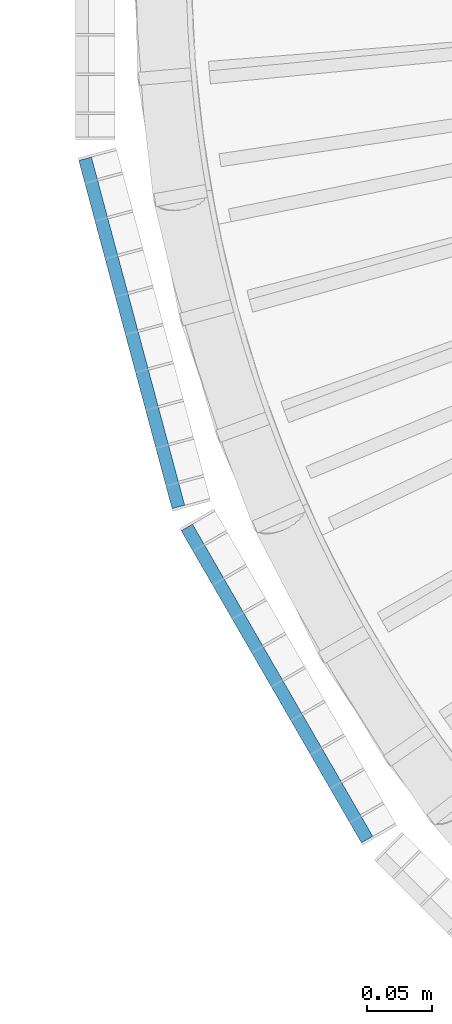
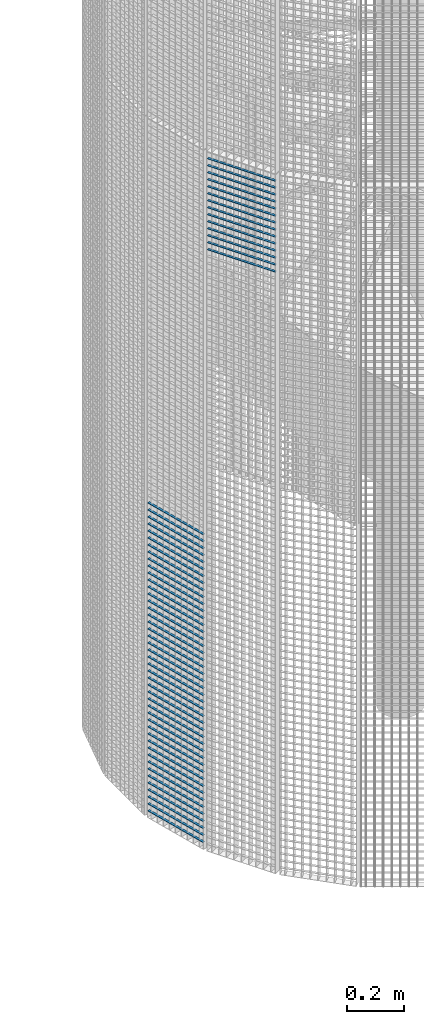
# One storey, part 366 of 1148: 59 beams, 2 elements without a shape of their own.
"""IFC2X3 building model written with IfcOpenShell, lengths in millimetres."""

import ifcopenshell
import ifcopenshell.guid

model = None  # the IFC model being written
_history = None  # IfcOwnerHistory: only IFC2X3 demands one
_inside = {}  # id of a spatial element -> (the spatial element, [elements in it])
_under = {}  # id of a project, library or spatial element -> (it, [spatial elements below it])
_declared = {}  # id of a project -> (the project, [libraries it declares])
_typed = {}  # id of a type object -> (the type object, [elements of that type])
_made_of = {}  # id of a material, layer set ... -> (it, [elements and type objects made of it])


def new_model(schema):
    """Start an empty IFC model of exactly this schema.

    Asked for "IFC4X3", IfcOpenShell would pick the latest addendum, in which some entities
    have other attributes; the version numbers below select the first issue.
    IFC2X3 requires an IfcOwnerHistory on every rooted entity: one is made here for all.
    """
    global model, _history
    if schema == "IFC4X3":
        model = ifcopenshell.file(schema_version=(4, 3, 0, 0))
    else:
        model = ifcopenshell.file(schema=schema)
    _inside.clear()
    _under.clear()
    _declared.clear()
    _typed.clear()
    _made_of.clear()
    _history = None
    if model.schema == "IFC2X3":
        org = make("IfcOrganization", Name="unknown")
        user = make(
            "IfcPersonAndOrganization",
            ThePerson=make("IfcPerson", FamilyName="unknown"),
            TheOrganization=org,
        )
        app = make(
            "IfcApplication",
            ApplicationDeveloper=org,
            Version="unknown",
            ApplicationFullName="unknown",
            ApplicationIdentifier="unknown",
        )
        _history = make(
            "IfcOwnerHistory",
            OwningUser=user,
            OwningApplication=app,
            ChangeAction="ADDED",
            CreationDate=0,
        )
    return model


def make(cls, **values):
    """One entity of the class cls with the attributes given. An attribute that is None is left unset."""
    return model.create_entity(
        cls, **{name: value for name, value in values.items() if value is not None}
    )


def rooted(cls, **values):
    """An entity with a GlobalId (a new one), such as an element, a storey or a relation."""
    return make(cls, GlobalId=ifcopenshell.guid.new(), OwnerHistory=_history, **values)


def si_unit(unit_type, name, prefix=None):
    """IfcSIUnit, for example si_unit("LENGTHUNIT", "METRE", prefix="MILLI")."""
    return make("IfcSIUnit", UnitType=unit_type, Prefix=prefix, Name=name)


def assignment(units):
    """IfcUnitAssignment: the units of a project."""
    return None if units is None else make("IfcUnitAssignment", Units=units)


def point(xyz):
    """IfcCartesianPoint."""
    return None if xyz is None else make("IfcCartesianPoint", Coordinates=xyz)


def direction(xyz):
    """IfcDirection."""
    return None if xyz is None else make("IfcDirection", DirectionRatios=xyz)


def frame(location, z_axis=None, x_axis=None):
    """IfcAxis2Placement3D, a coordinate frame: its origin and axes. An axis left out is left unset."""
    return make(
        "IfcAxis2Placement3D",
        Location=point(location),
        Axis=direction(z_axis),
        RefDirection=direction(x_axis),
    )


def frame_2d(location, x_axis=None):
    """IfcAxis2Placement2D, a coordinate frame in the plane: its origin and x axis."""
    return make(
        "IfcAxis2Placement2D", Location=point(location), RefDirection=direction(x_axis)
    )


def origin_with_axes():
    """The frame at (0, 0, 0) with the z axis (0, 0, 1) and the x axis (1, 0, 0) written out."""
    return frame((0.0, 0.0, 0.0), z_axis=(0.0, 0.0, 1.0), x_axis=(1.0, 0.0, 0.0))


def origin_2d_with_axis():
    """The frame at (0, 0) in the plane with the x axis (1, 0) written out."""
    return frame_2d((0.0, 0.0), x_axis=(1.0, 0.0))


def place(relative_to, where):
    """IfcLocalPlacement: puts the frame where relative to a parent placement (None: the world)."""
    return make(
        "IfcLocalPlacement", PlacementRelTo=relative_to, RelativePlacement=where
    )


def context(
    kind, dimensions, precision=None, world=None, true_north=None, identifier=None
):
    """IfcGeometricRepresentationContext, for example the 3D "Model" context."""
    return make(
        "IfcGeometricRepresentationContext",
        ContextIdentifier=identifier,
        ContextType=kind,
        CoordinateSpaceDimension=dimensions,
        Precision=precision,
        WorldCoordinateSystem=world,
        TrueNorth=true_north,
    )


def subcontext(parent, identifier, kind, view, scale=None):
    """IfcGeometricRepresentationSubContext, for example "Body" below "Model"."""
    return make(
        "IfcGeometricRepresentationSubContext",
        ContextIdentifier=identifier,
        ContextType=kind,
        ParentContext=parent,
        TargetScale=scale,
        TargetView=view,
    )


def project(units=None, contexts=None):
    """IfcProject with its units and contexts."""
    return rooted(
        "IfcProject",
        Name="project",
        RepresentationContexts=contexts,
        UnitsInContext=assignment(units),
    )


def spatial(cls, under=None, at=None, **own):
    """A site, building, storey or space (cls), placed at a placement, below another one or the project."""
    s = rooted(cls, ObjectPlacement=at, **own)
    if under is not None:
        _under.setdefault(under.id(), (under, []))[1].append(s)
    return s


def profile(cls, at=None, kind="AREA", **sizes):
    """A parametric profile (cls). Its sizes go by their IFC names, for example OverallWidth=200.0."""
    return make(cls, ProfileType=kind, Position=at, **sizes)


def rectangle(**sizes):
    """IfcRectangleProfileDef."""
    return profile("IfcRectangleProfileDef", **sizes)


def extrude(swept, where, along, depth):
    """IfcExtrudedAreaSolid: the profile swept, set in the frame where, extruded along a direction by depth."""
    return make(
        "IfcExtrudedAreaSolid",
        SweptArea=swept,
        Position=where,
        ExtrudedDirection=direction(along),
        Depth=depth,
    )


def shape(context_of_items, identifier, shape_type, items):
    """IfcShapeRepresentation: the items that make up one representation, for example the "Body"."""
    return make(
        "IfcShapeRepresentation",
        ContextOfItems=context_of_items,
        RepresentationIdentifier=identifier,
        RepresentationType=shape_type,
        Items=items,
    )


def material(Name=None, Category=None):
    """IfcMaterial."""
    return make("IfcMaterial", Name=Name, Category=Category)


def made_of(thing, what):
    """Note that an element or type object is made of a material, layer set ...; save() writes the relation."""
    if what is not None:
        _made_of.setdefault(what.id(), (what, []))[1].append(thing)
    return thing


def type_object(cls, material=None, **own):
    """A type object (cls), such as IfcWallType, which elements share."""
    return made_of(rooted(cls, **own), material)


def element(
    cls,
    number,
    at=None,
    inside=None,
    cuts=None,
    type_object=None,
    material=None,
    context=None,
    identifier="Body",
    shape_type=None,
    held_by="IfcProductDefinitionShape",
    body=None,
    shapes=None,
    **own,
):
    """One element of the class cls, such as IfcWall. Its Tag is "e" and its number.

    at: its placement. inside: the storey or other place that contains it. cuts: it is an
    opening in that element (IfcRelVoidsElement). A single representation is given by context,
    identifier, shape_type and body (its items); several are given by shapes. held_by: the class
    of the entity that holds the representations. save() writes the other relations.
    """
    e = rooted(cls, Tag="e%d" % number, ObjectPlacement=at, **own)
    if body is not None:
        shapes = [shape(context, identifier, shape_type, body)]
    if shapes is not None:
        e.Representation = make(held_by, Representations=shapes)
    if inside is not None:
        _inside.setdefault(inside.id(), (inside, []))[1].append(e)
    if cuts is not None:
        rooted(
            "IfcRelVoidsElement", RelatingBuildingElement=cuts, RelatedOpeningElement=e
        )
    if type_object is not None:
        _typed.setdefault(type_object.id(), (type_object, []))[1].append(e)
    return made_of(e, material)


def aggregate(whole, parts):
    """IfcRelAggregates: a whole, such as a stair, and the parts it consists of."""
    return rooted("IfcRelAggregates", RelatingObject=whole, RelatedObjects=parts)


def save(model, path):
    """Write the relations noted so far, then the file.

    IfcRelAggregates (storeys below a building ...), IfcRelContainedInSpatialStructure (elements
    in a storey), IfcRelDefinesByType, IfcRelAssociatesMaterial and IfcRelDeclares: one each for
    every whole, place, type object, material and project.
    """
    for whole, parts in _under.values():
        aggregate(whole, parts)
    for where, things in _inside.values():
        rooted(
            "IfcRelContainedInSpatialStructure",
            RelatedElements=things,
            RelatingStructure=where,
        )
    for kind, things in _typed.values():
        rooted("IfcRelDefinesByType", RelatedObjects=things, RelatingType=kind)
    for what, things in _made_of.values():
        rooted("IfcRelAssociatesMaterial", RelatedObjects=things, RelatingMaterial=what)
    for by, libraries in _declared.values():
        rooted("IfcRelDeclares", RelatingContext=by, RelatedDefinitions=libraries)
    model.write(path)


model = new_model("IFC2X3")

# Units and contexts
model_context = context("Model", 3, precision=1e-05, world=origin_with_axes())
body_context = subcontext(model_context, "Body", "Model", "MODEL_VIEW")
ifc_project = project(units=[si_unit("LENGTHUNIT", "METRE", prefix="MILLI"), si_unit("AREAUNIT", "SQUARE_METRE"), si_unit("VOLUMEUNIT", "CUBIC_METRE"), si_unit("MASSUNIT", "GRAM", prefix="KILO"), si_unit("TIMEUNIT", "SECOND"), si_unit("PLANEANGLEUNIT", "RADIAN"), si_unit("SOLIDANGLEUNIT", "STERADIAN"), si_unit("THERMODYNAMICTEMPERATUREUNIT", "DEGREE_CELSIUS"), si_unit("LUMINOUSINTENSITYUNIT", "LUMEN")], contexts=[model_context])

# Site, building, storey
site_placement = place(None, origin_with_axes())
site = spatial("IfcSite", under=ifc_project, at=site_placement, Name="Undefined", CompositionType="ELEMENT")
building_placement = place(site_placement, origin_with_axes())
building = spatial("IfcBuilding", under=site, at=building_placement, Name="Undefined", CompositionType="ELEMENT")
storey_placement = place(building_placement, origin_with_axes())
storey = spatial("IfcBuildingStorey", under=building, at=storey_placement, Name="Undefined", CompositionType="ELEMENT", Elevation=0.0)

# Assembly, beams
assembly_1_placement = place(storey_placement, origin_with_axes())
assembly_1 = element("IfcElementAssembly", 1, at=assembly_1_placement, inside=storey, Name="BORDURE", AssemblyPlace="NOTDEFINED", PredefinedType="NOTDEFINED")
ifc_material = material(Name="STEEL/S235JR")
beam_type = type_object("IfcBeamType", Name="PL2*10", PredefinedType="NOTDEFINED")
beam_1_placement = place(assembly_1_placement, frame((20560.1769047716, -421.483733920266, 1350.0), z_axis=(-0.965925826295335, -0.258819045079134, 0.0), x_axis=(-0.258819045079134, 0.965925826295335, 0.0)))
beam_1 = element("IfcBeam", 2, at=beam_1_placement, type_object=beam_type, material=ifc_material, Name="ENTRETOISE", context=body_context, shape_type="SweptSolid", body=[
    extrude(rectangle(XDim=2.0, YDim=10.0, at=origin_2d_with_axis()), frame((275.999999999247, 9.09494701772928e-13, 1.53210777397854e-14), z_axis=(-1.0, 0.0, 0.0), x_axis=(0.0, -1.0, 0.0)), (0.0, 0.0, 1.0), 276.0),
])
beam_2_placement = place(assembly_1_placement, frame((20560.1769047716, -421.483733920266, 1320.0), z_axis=(-0.965925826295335, -0.258819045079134, 0.0), x_axis=(-0.258819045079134, 0.965925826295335, 0.0)))
beam_2 = element("IfcBeam", 3, at=beam_2_placement, type_object=beam_type, material=ifc_material, Name="ENTRETOISE", context=body_context, shape_type="SweptSolid", body=[
    extrude(rectangle(XDim=2.0, YDim=10.0, at=origin_2d_with_axis()), frame((275.999999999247, 9.09494701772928e-13, 1.53210777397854e-14), z_axis=(-1.0, 0.0, 0.0), x_axis=(0.0, -1.0, 0.0)), (0.0, 0.0, 1.0), 276.0),
])
beam_3_placement = place(assembly_1_placement, frame((20560.1769047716, -421.483733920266, 1290.0), z_axis=(-0.965925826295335, -0.258819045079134, 0.0), x_axis=(-0.258819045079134, 0.965925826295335, 0.0)))
beam_3 = element("IfcBeam", 4, at=beam_3_placement, type_object=beam_type, material=ifc_material, Name="ENTRETOISE", context=body_context, shape_type="SweptSolid", body=[
    extrude(rectangle(XDim=2.0, YDim=10.0, at=origin_2d_with_axis()), frame((275.999999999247, 9.09494701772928e-13, 1.53210777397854e-14), z_axis=(-1.0, 0.0, 0.0), x_axis=(0.0, -1.0, 0.0)), (0.0, 0.0, 1.0), 276.0),
])
beam_4_placement = place(assembly_1_placement, frame((20560.1769047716, -421.483733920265, 1260.0), z_axis=(-0.965925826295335, -0.258819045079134, 0.0), x_axis=(-0.258819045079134, 0.965925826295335, 0.0)))
beam_4 = element("IfcBeam", 5, at=beam_4_placement, type_object=beam_type, material=ifc_material, Name="ENTRETOISE", context=body_context, shape_type="SweptSolid", body=[
    extrude(rectangle(XDim=2.0, YDim=10.0, at=origin_2d_with_axis()), frame((275.999999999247, 9.09494701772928e-13, 1.53210777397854e-14), z_axis=(-1.0, 0.0, 0.0), x_axis=(0.0, -1.0, 0.0)), (0.0, 0.0, 1.0), 276.0),
])
beam_5_placement = place(assembly_1_placement, frame((20560.1769047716, -421.483733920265, 1230.0), z_axis=(-0.965925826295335, -0.258819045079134, 0.0), x_axis=(-0.258819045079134, 0.965925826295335, 0.0)))
beam_5 = element("IfcBeam", 6, at=beam_5_placement, type_object=beam_type, material=ifc_material, Name="ENTRETOISE", context=body_context, shape_type="SweptSolid", body=[
    extrude(rectangle(XDim=2.0, YDim=10.0, at=origin_2d_with_axis()), frame((275.999999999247, 9.09494701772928e-13, 1.53210777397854e-14), z_axis=(-1.0, 0.0, 0.0), x_axis=(0.0, -1.0, 0.0)), (0.0, 0.0, 1.0), 276.0),
])
beam_6_placement = place(assembly_1_placement, frame((20560.1769047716, -421.483733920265, 1200.0), z_axis=(-0.965925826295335, -0.258819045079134, 0.0), x_axis=(-0.258819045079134, 0.965925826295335, 0.0)))
beam_6 = element("IfcBeam", 7, at=beam_6_placement, type_object=beam_type, material=ifc_material, Name="ENTRETOISE", context=body_context, shape_type="SweptSolid", body=[
    extrude(rectangle(XDim=2.0, YDim=10.0, at=origin_2d_with_axis()), frame((275.999999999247, 9.09494701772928e-13, 1.53210777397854e-14), z_axis=(-1.0, 0.0, 0.0), x_axis=(0.0, -1.0, 0.0)), (0.0, 0.0, 1.0), 276.0),
])
beam_7_placement = place(assembly_1_placement, frame((20560.1769047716, -421.483733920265, 1170.0), z_axis=(-0.965925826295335, -0.258819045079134, 0.0), x_axis=(-0.258819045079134, 0.965925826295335, 0.0)))
beam_7 = element("IfcBeam", 8, at=beam_7_placement, type_object=beam_type, material=ifc_material, Name="ENTRETOISE", context=body_context, shape_type="SweptSolid", body=[
    extrude(rectangle(XDim=2.0, YDim=10.0, at=origin_2d_with_axis()), frame((275.999999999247, 9.09494701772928e-13, 1.53210777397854e-14), z_axis=(-1.0, 0.0, 0.0), x_axis=(0.0, -1.0, 0.0)), (0.0, 0.0, 1.0), 276.0),
])
beam_8_placement = place(assembly_1_placement, frame((20560.1769047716, -421.483733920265, 1140.0), z_axis=(-0.965925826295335, -0.258819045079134, 0.0), x_axis=(-0.258819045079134, 0.965925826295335, 0.0)))
beam_8 = element("IfcBeam", 9, at=beam_8_placement, type_object=beam_type, material=ifc_material, Name="ENTRETOISE", context=body_context, shape_type="SweptSolid", body=[
    extrude(rectangle(XDim=2.0, YDim=10.0, at=origin_2d_with_axis()), frame((275.999999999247, 9.09494701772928e-13, 1.53210777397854e-14), z_axis=(-1.0, 0.0, 0.0), x_axis=(0.0, -1.0, 0.0)), (0.0, 0.0, 1.0), 276.0),
])
beam_9_placement = place(assembly_1_placement, frame((20560.1769047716, -421.483733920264, 719.999999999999), z_axis=(-0.965925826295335, -0.258819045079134, 0.0), x_axis=(-0.258819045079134, 0.965925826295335, 0.0)))
beam_9 = element("IfcBeam", 10, at=beam_9_placement, type_object=beam_type, material=ifc_material, Name="ENTRETOISE", context=body_context, shape_type="SweptSolid", body=[
    extrude(rectangle(XDim=2.0, YDim=10.0, at=origin_2d_with_axis()), frame((275.999999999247, 9.09494701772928e-13, 1.53210777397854e-14), z_axis=(-1.0, 0.0, 0.0), x_axis=(0.0, -1.0, 0.0)), (0.0, 0.0, 1.0), 276.0),
])
beam_10_placement = place(assembly_1_placement, frame((20560.1769047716, -421.483733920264, 689.999999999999), z_axis=(-0.965925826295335, -0.258819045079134, 0.0), x_axis=(-0.258819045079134, 0.965925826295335, 0.0)))
beam_10 = element("IfcBeam", 11, at=beam_10_placement, type_object=beam_type, material=ifc_material, Name="ENTRETOISE", context=body_context, shape_type="SweptSolid", body=[
    extrude(rectangle(XDim=2.0, YDim=10.0, at=origin_2d_with_axis()), frame((275.999999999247, 9.09494701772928e-13, 1.53210777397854e-14), z_axis=(-1.0, 0.0, 0.0), x_axis=(0.0, -1.0, 0.0)), (0.0, 0.0, 1.0), 276.0),
])
beam_11_placement = place(assembly_1_placement, frame((20560.1769047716, -421.483733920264, 749.999999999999), z_axis=(-0.965925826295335, -0.258819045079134, 0.0), x_axis=(-0.258819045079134, 0.965925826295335, 0.0)))
beam_11 = element("IfcBeam", 12, at=beam_11_placement, type_object=beam_type, material=ifc_material, Name="ENTRETOISE", context=body_context, shape_type="SweptSolid", body=[
    extrude(rectangle(XDim=2.0, YDim=10.0, at=origin_2d_with_axis()), frame((275.999999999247, 9.09494701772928e-13, 1.53210777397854e-14), z_axis=(-1.0, 0.0, 0.0), x_axis=(0.0, -1.0, 0.0)), (0.0, 0.0, 1.0), 276.0),
])
beam_12_placement = place(assembly_1_placement, frame((20560.1769047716, -421.483733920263, 659.999999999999), z_axis=(-0.965925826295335, -0.258819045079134, 0.0), x_axis=(-0.258819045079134, 0.965925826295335, 0.0)))
beam_12 = element("IfcBeam", 13, at=beam_12_placement, type_object=beam_type, material=ifc_material, Name="ENTRETOISE", context=body_context, shape_type="SweptSolid", body=[
    extrude(rectangle(XDim=2.0, YDim=10.0, at=origin_2d_with_axis()), frame((275.999999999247, 9.09494701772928e-13, 1.53210777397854e-14), z_axis=(-1.0, 0.0, 0.0), x_axis=(0.0, -1.0, 0.0)), (0.0, 0.0, 1.0), 276.0),
])
beam_13_placement = place(assembly_1_placement, frame((20560.1769047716, -421.483733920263, 629.999999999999), z_axis=(-0.965925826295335, -0.258819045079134, 0.0), x_axis=(-0.258819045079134, 0.965925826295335, 0.0)))
beam_13 = element("IfcBeam", 14, at=beam_13_placement, type_object=beam_type, material=ifc_material, Name="ENTRETOISE", context=body_context, shape_type="SweptSolid", body=[
    extrude(rectangle(XDim=2.0, YDim=10.0, at=origin_2d_with_axis()), frame((275.999999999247, 9.09494701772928e-13, 1.53210777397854e-14), z_axis=(-1.0, 0.0, 0.0), x_axis=(0.0, -1.0, 0.0)), (0.0, 0.0, 1.0), 276.0),
])
beam_14_placement = place(assembly_1_placement, frame((20560.1769047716, -421.483733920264, 779.999999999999), z_axis=(-0.965925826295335, -0.258819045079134, 0.0), x_axis=(-0.258819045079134, 0.965925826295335, 0.0)))
beam_14 = element("IfcBeam", 15, at=beam_14_placement, type_object=beam_type, material=ifc_material, Name="ENTRETOISE", context=body_context, shape_type="SweptSolid", body=[
    extrude(rectangle(XDim=2.0, YDim=10.0, at=origin_2d_with_axis()), frame((275.999999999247, 9.09494701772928e-13, 1.53210777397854e-14), z_axis=(-1.0, 0.0, 0.0), x_axis=(0.0, -1.0, 0.0)), (0.0, 0.0, 1.0), 276.0),
])
beam_15_placement = place(assembly_1_placement, frame((20560.1769047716, -421.483733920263, 599.999999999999), z_axis=(-0.965925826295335, -0.258819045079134, 0.0), x_axis=(-0.258819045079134, 0.965925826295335, 0.0)))
beam_15 = element("IfcBeam", 16, at=beam_15_placement, type_object=beam_type, material=ifc_material, Name="ENTRETOISE", context=body_context, shape_type="SweptSolid", body=[
    extrude(rectangle(XDim=2.0, YDim=10.0, at=origin_2d_with_axis()), frame((275.999999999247, 9.09494701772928e-13, 1.53210777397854e-14), z_axis=(-1.0, 0.0, 0.0), x_axis=(0.0, -1.0, 0.0)), (0.0, 0.0, 1.0), 276.0),
])
beam_16_placement = place(assembly_1_placement, frame((20560.1769047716, -421.483733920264, 809.999999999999), z_axis=(-0.965925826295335, -0.258819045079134, 0.0), x_axis=(-0.258819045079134, 0.965925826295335, 0.0)))
beam_16 = element("IfcBeam", 17, at=beam_16_placement, type_object=beam_type, material=ifc_material, Name="ENTRETOISE", context=body_context, shape_type="SweptSolid", body=[
    extrude(rectangle(XDim=2.0, YDim=10.0, at=origin_2d_with_axis()), frame((275.999999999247, 9.09494701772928e-13, 1.53210777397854e-14), z_axis=(-1.0, 0.0, 0.0), x_axis=(0.0, -1.0, 0.0)), (0.0, 0.0, 1.0), 276.0),
])
beam_17_placement = place(assembly_1_placement, frame((20560.1769047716, -421.483733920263, 569.999999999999), z_axis=(-0.965925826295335, -0.258819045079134, 0.0), x_axis=(-0.258819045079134, 0.965925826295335, 0.0)))
beam_17 = element("IfcBeam", 18, at=beam_17_placement, type_object=beam_type, material=ifc_material, Name="ENTRETOISE", context=body_context, shape_type="SweptSolid", body=[
    extrude(rectangle(XDim=2.0, YDim=10.0, at=origin_2d_with_axis()), frame((275.999999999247, 9.09494701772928e-13, 1.53210777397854e-14), z_axis=(-1.0, 0.0, 0.0), x_axis=(0.0, -1.0, 0.0)), (0.0, 0.0, 1.0), 276.0),
])
beam_18_placement = place(assembly_1_placement, frame((20560.1769047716, -421.483733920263, 539.999999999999), z_axis=(-0.965925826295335, -0.258819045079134, 0.0), x_axis=(-0.258819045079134, 0.965925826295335, 0.0)))
beam_18 = element("IfcBeam", 19, at=beam_18_placement, type_object=beam_type, material=ifc_material, Name="ENTRETOISE", context=body_context, shape_type="SweptSolid", body=[
    extrude(rectangle(XDim=2.0, YDim=10.0, at=origin_2d_with_axis()), frame((275.999999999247, 9.09494701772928e-13, 1.53210777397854e-14), z_axis=(-1.0, 0.0, 0.0), x_axis=(0.0, -1.0, 0.0)), (0.0, 0.0, 1.0), 276.0),
])
beam_19_placement = place(assembly_1_placement, frame((20560.1769047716, -421.483733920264, 839.999999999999), z_axis=(-0.965925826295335, -0.258819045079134, 0.0), x_axis=(-0.258819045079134, 0.965925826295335, 0.0)))
beam_19 = element("IfcBeam", 20, at=beam_19_placement, type_object=beam_type, material=ifc_material, Name="ENTRETOISE", context=body_context, shape_type="SweptSolid", body=[
    extrude(rectangle(XDim=2.0, YDim=10.0, at=origin_2d_with_axis()), frame((275.999999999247, 9.09494701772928e-13, 1.53210777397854e-14), z_axis=(-1.0, 0.0, 0.0), x_axis=(0.0, -1.0, 0.0)), (0.0, 0.0, 1.0), 276.0),
])
beam_20_placement = place(assembly_1_placement, frame((20560.1769047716, -421.483733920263, 509.999999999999), z_axis=(-0.965925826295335, -0.258819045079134, 0.0), x_axis=(-0.258819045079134, 0.965925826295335, 0.0)))
beam_20 = element("IfcBeam", 21, at=beam_20_placement, type_object=beam_type, material=ifc_material, Name="ENTRETOISE", context=body_context, shape_type="SweptSolid", body=[
    extrude(rectangle(XDim=2.0, YDim=10.0, at=origin_2d_with_axis()), frame((275.999999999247, 9.09494701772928e-13, 1.53210777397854e-14), z_axis=(-1.0, 0.0, 0.0), x_axis=(0.0, -1.0, 0.0)), (0.0, 0.0, 1.0), 276.0),
])
beam_21_placement = place(assembly_1_placement, frame((20560.1769047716, -421.483733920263, 479.999999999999), z_axis=(-0.965925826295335, -0.258819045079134, 0.0), x_axis=(-0.258819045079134, 0.965925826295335, 0.0)))
beam_21 = element("IfcBeam", 22, at=beam_21_placement, type_object=beam_type, material=ifc_material, Name="ENTRETOISE", context=body_context, shape_type="SweptSolid", body=[
    extrude(rectangle(XDim=2.0, YDim=10.0, at=origin_2d_with_axis()), frame((275.999999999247, 9.09494701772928e-13, 1.53210777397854e-14), z_axis=(-1.0, 0.0, 0.0), x_axis=(0.0, -1.0, 0.0)), (0.0, 0.0, 1.0), 276.0),
])
beam_22_placement = place(assembly_1_placement, frame((20560.1769047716, -421.483733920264, 869.999999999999), z_axis=(-0.965925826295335, -0.258819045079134, 0.0), x_axis=(-0.258819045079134, 0.965925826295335, 0.0)))
beam_22 = element("IfcBeam", 23, at=beam_22_placement, type_object=beam_type, material=ifc_material, Name="ENTRETOISE", context=body_context, shape_type="SweptSolid", body=[
    extrude(rectangle(XDim=2.0, YDim=10.0, at=origin_2d_with_axis()), frame((275.999999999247, 9.09494701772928e-13, 1.53210777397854e-14), z_axis=(-1.0, 0.0, 0.0), x_axis=(0.0, -1.0, 0.0)), (0.0, 0.0, 1.0), 276.0),
])
beam_23_placement = place(assembly_1_placement, frame((20560.1769047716, -421.483733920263, 449.999999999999), z_axis=(-0.965925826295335, -0.258819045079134, 0.0), x_axis=(-0.258819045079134, 0.965925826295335, 0.0)))
beam_23 = element("IfcBeam", 24, at=beam_23_placement, type_object=beam_type, material=ifc_material, Name="ENTRETOISE", context=body_context, shape_type="SweptSolid", body=[
    extrude(rectangle(XDim=2.0, YDim=10.0, at=origin_2d_with_axis()), frame((275.999999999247, 9.09494701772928e-13, 1.53210777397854e-14), z_axis=(-1.0, 0.0, 0.0), x_axis=(0.0, -1.0, 0.0)), (0.0, 0.0, 1.0), 276.0),
])
beam_24_placement = place(assembly_1_placement, frame((20560.1769047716, -421.483733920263, 419.999999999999), z_axis=(-0.965925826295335, -0.258819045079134, 0.0), x_axis=(-0.258819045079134, 0.965925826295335, 0.0)))
beam_24 = element("IfcBeam", 25, at=beam_24_placement, type_object=beam_type, material=ifc_material, Name="ENTRETOISE", context=body_context, shape_type="SweptSolid", body=[
    extrude(rectangle(XDim=2.0, YDim=10.0, at=origin_2d_with_axis()), frame((275.999999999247, 9.09494701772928e-13, 1.53210777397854e-14), z_axis=(-1.0, 0.0, 0.0), x_axis=(0.0, -1.0, 0.0)), (0.0, 0.0, 1.0), 276.0),
])
beam_25_placement = place(assembly_1_placement, frame((20560.1769047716, -421.483733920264, 899.999999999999), z_axis=(-0.965925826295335, -0.258819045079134, 0.0), x_axis=(-0.258819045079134, 0.965925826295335, 0.0)))
beam_25 = element("IfcBeam", 26, at=beam_25_placement, type_object=beam_type, material=ifc_material, Name="ENTRETOISE", context=body_context, shape_type="SweptSolid", body=[
    extrude(rectangle(XDim=2.0, YDim=10.0, at=origin_2d_with_axis()), frame((275.999999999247, 9.09494701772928e-13, 1.53210777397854e-14), z_axis=(-1.0, 0.0, 0.0), x_axis=(0.0, -1.0, 0.0)), (0.0, 0.0, 1.0), 276.0),
])
beam_26_placement = place(assembly_1_placement, frame((20560.1769047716, -421.483733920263, 389.999999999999), z_axis=(-0.965925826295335, -0.258819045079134, 0.0), x_axis=(-0.258819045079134, 0.965925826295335, 0.0)))
beam_26 = element("IfcBeam", 27, at=beam_26_placement, type_object=beam_type, material=ifc_material, Name="ENTRETOISE", context=body_context, shape_type="SweptSolid", body=[
    extrude(rectangle(XDim=2.0, YDim=10.0, at=origin_2d_with_axis()), frame((275.999999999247, 9.09494701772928e-13, 1.53210777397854e-14), z_axis=(-1.0, 0.0, 0.0), x_axis=(0.0, -1.0, 0.0)), (0.0, 0.0, 1.0), 276.0),
])
beam_27_placement = place(assembly_1_placement, frame((20560.1769047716, -421.483733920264, 929.999999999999), z_axis=(-0.965925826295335, -0.258819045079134, 0.0), x_axis=(-0.258819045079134, 0.965925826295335, 0.0)))
beam_27 = element("IfcBeam", 28, at=beam_27_placement, type_object=beam_type, material=ifc_material, Name="ENTRETOISE", context=body_context, shape_type="SweptSolid", body=[
    extrude(rectangle(XDim=2.0, YDim=10.0, at=origin_2d_with_axis()), frame((275.999999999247, 9.09494701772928e-13, 1.53210777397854e-14), z_axis=(-1.0, 0.0, 0.0), x_axis=(0.0, -1.0, 0.0)), (0.0, 0.0, 1.0), 276.0),
])
beam_28_placement = place(assembly_1_placement, frame((20560.1769047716, -421.483733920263, 359.999999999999), z_axis=(-0.965925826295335, -0.258819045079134, 0.0), x_axis=(-0.258819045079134, 0.965925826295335, 0.0)))
beam_28 = element("IfcBeam", 29, at=beam_28_placement, type_object=beam_type, material=ifc_material, Name="ENTRETOISE", context=body_context, shape_type="SweptSolid", body=[
    extrude(rectangle(XDim=2.0, YDim=10.0, at=origin_2d_with_axis()), frame((275.999999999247, 9.09494701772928e-13, 1.53210777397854e-14), z_axis=(-1.0, 0.0, 0.0), x_axis=(0.0, -1.0, 0.0)), (0.0, 0.0, 1.0), 276.0),
])
beam_29_placement = place(assembly_1_placement, frame((20560.1769047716, -421.483733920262, 329.999999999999), z_axis=(-0.965925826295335, -0.258819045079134, 0.0), x_axis=(-0.258819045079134, 0.965925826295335, 0.0)))
beam_29 = element("IfcBeam", 30, at=beam_29_placement, type_object=beam_type, material=ifc_material, Name="ENTRETOISE", context=body_context, shape_type="SweptSolid", body=[
    extrude(rectangle(XDim=2.0, YDim=10.0, at=origin_2d_with_axis()), frame((275.999999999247, 9.09494701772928e-13, 1.53210777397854e-14), z_axis=(-1.0, 0.0, 0.0), x_axis=(0.0, -1.0, 0.0)), (0.0, 0.0, 1.0), 276.0),
])
beam_30_placement = place(assembly_1_placement, frame((20560.1769047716, -421.483733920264, 959.999999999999), z_axis=(-0.965925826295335, -0.258819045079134, 0.0), x_axis=(-0.258819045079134, 0.965925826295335, 0.0)))
beam_30 = element("IfcBeam", 31, at=beam_30_placement, type_object=beam_type, material=ifc_material, Name="ENTRETOISE", context=body_context, shape_type="SweptSolid", body=[
    extrude(rectangle(XDim=2.0, YDim=10.0, at=origin_2d_with_axis()), frame((275.999999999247, 9.09494701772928e-13, 1.53210777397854e-14), z_axis=(-1.0, 0.0, 0.0), x_axis=(0.0, -1.0, 0.0)), (0.0, 0.0, 1.0), 276.0),
])
beam_31_placement = place(assembly_1_placement, frame((20560.1769047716, -421.483733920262, 299.999999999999), z_axis=(-0.965925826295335, -0.258819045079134, 0.0), x_axis=(-0.258819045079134, 0.965925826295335, 0.0)))
beam_31 = element("IfcBeam", 32, at=beam_31_placement, type_object=beam_type, material=ifc_material, Name="ENTRETOISE", context=body_context, shape_type="SweptSolid", body=[
    extrude(rectangle(XDim=2.0, YDim=10.0, at=origin_2d_with_axis()), frame((275.999999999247, 9.09494701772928e-13, 1.53210777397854e-14), z_axis=(-1.0, 0.0, 0.0), x_axis=(0.0, -1.0, 0.0)), (0.0, 0.0, 1.0), 276.0),
])
beam_32_placement = place(assembly_1_placement, frame((20560.1769047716, -421.483733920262, 269.999999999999), z_axis=(-0.965925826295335, -0.258819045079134, 0.0), x_axis=(-0.258819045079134, 0.965925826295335, 0.0)))
beam_32 = element("IfcBeam", 33, at=beam_32_placement, type_object=beam_type, material=ifc_material, Name="ENTRETOISE", context=body_context, shape_type="SweptSolid", body=[
    extrude(rectangle(XDim=2.0, YDim=10.0, at=origin_2d_with_axis()), frame((275.999999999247, 9.09494701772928e-13, 1.53210777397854e-14), z_axis=(-1.0, 0.0, 0.0), x_axis=(0.0, -1.0, 0.0)), (0.0, 0.0, 1.0), 276.0),
])
beam_33_placement = place(assembly_1_placement, frame((20560.1769047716, -421.483733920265, 989.999999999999), z_axis=(-0.965925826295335, -0.258819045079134, 0.0), x_axis=(-0.258819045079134, 0.965925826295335, 0.0)))
beam_33 = element("IfcBeam", 34, at=beam_33_placement, type_object=beam_type, material=ifc_material, Name="ENTRETOISE", context=body_context, shape_type="SweptSolid", body=[
    extrude(rectangle(XDim=2.0, YDim=10.0, at=origin_2d_with_axis()), frame((275.999999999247, 9.09494701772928e-13, 1.53210777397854e-14), z_axis=(-1.0, 0.0, 0.0), x_axis=(0.0, -1.0, 0.0)), (0.0, 0.0, 1.0), 276.0),
])
beam_34_placement = place(assembly_1_placement, frame((20560.1769047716, -421.483733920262, 239.999999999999), z_axis=(-0.965925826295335, -0.258819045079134, 0.0), x_axis=(-0.258819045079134, 0.965925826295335, 0.0)))
beam_34 = element("IfcBeam", 35, at=beam_34_placement, type_object=beam_type, material=ifc_material, Name="ENTRETOISE", context=body_context, shape_type="SweptSolid", body=[
    extrude(rectangle(XDim=2.0, YDim=10.0, at=origin_2d_with_axis()), frame((275.999999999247, 9.09494701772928e-13, 1.53210777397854e-14), z_axis=(-1.0, 0.0, 0.0), x_axis=(0.0, -1.0, 0.0)), (0.0, 0.0, 1.0), 276.0),
])
beam_35_placement = place(assembly_1_placement, frame((20560.1769047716, -421.483733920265, 1020.0), z_axis=(-0.965925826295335, -0.258819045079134, 0.0), x_axis=(-0.258819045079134, 0.965925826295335, 0.0)))
beam_35 = element("IfcBeam", 36, at=beam_35_placement, type_object=beam_type, material=ifc_material, Name="ENTRETOISE", context=body_context, shape_type="SweptSolid", body=[
    extrude(rectangle(XDim=2.0, YDim=10.0, at=origin_2d_with_axis()), frame((275.999999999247, 9.09494701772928e-13, 1.53210777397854e-14), z_axis=(-1.0, 0.0, 0.0), x_axis=(0.0, -1.0, 0.0)), (0.0, 0.0, 1.0), 276.0),
])
beam_36_placement = place(assembly_1_placement, frame((20560.1769047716, -421.483733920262, 209.999999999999), z_axis=(-0.965925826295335, -0.258819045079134, 0.0), x_axis=(-0.258819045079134, 0.965925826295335, 0.0)))
beam_36 = element("IfcBeam", 37, at=beam_36_placement, type_object=beam_type, material=ifc_material, Name="ENTRETOISE", context=body_context, shape_type="SweptSolid", body=[
    extrude(rectangle(XDim=2.0, YDim=10.0, at=origin_2d_with_axis()), frame((275.999999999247, 9.09494701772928e-13, 1.53210777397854e-14), z_axis=(-1.0, 0.0, 0.0), x_axis=(0.0, -1.0, 0.0)), (0.0, 0.0, 1.0), 276.0),
])
beam_37_placement = place(assembly_1_placement, frame((20560.1769047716, -421.483733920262, 179.999999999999), z_axis=(-0.965925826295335, -0.258819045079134, 0.0), x_axis=(-0.258819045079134, 0.965925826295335, 0.0)))
beam_37 = element("IfcBeam", 38, at=beam_37_placement, type_object=beam_type, material=ifc_material, Name="ENTRETOISE", context=body_context, shape_type="SweptSolid", body=[
    extrude(rectangle(XDim=2.0, YDim=10.0, at=origin_2d_with_axis()), frame((275.999999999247, 9.09494701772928e-13, 1.53210777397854e-14), z_axis=(-1.0, 0.0, 0.0), x_axis=(0.0, -1.0, 0.0)), (0.0, 0.0, 1.0), 276.0),
])
beam_38_placement = place(assembly_1_placement, frame((20560.1769047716, -421.483733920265, 1050.0), z_axis=(-0.965925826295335, -0.258819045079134, 0.0), x_axis=(-0.258819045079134, 0.965925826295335, 0.0)))
beam_38 = element("IfcBeam", 39, at=beam_38_placement, type_object=beam_type, material=ifc_material, Name="ENTRETOISE", context=body_context, shape_type="SweptSolid", body=[
    extrude(rectangle(XDim=2.0, YDim=10.0, at=origin_2d_with_axis()), frame((275.999999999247, 9.09494701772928e-13, 1.53210777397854e-14), z_axis=(-1.0, 0.0, 0.0), x_axis=(0.0, -1.0, 0.0)), (0.0, 0.0, 1.0), 276.0),
])
beam_39_placement = place(assembly_1_placement, frame((20560.1769047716, -421.483733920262, 149.999999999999), z_axis=(-0.965925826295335, -0.258819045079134, 0.0), x_axis=(-0.258819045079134, 0.965925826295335, 0.0)))
beam_39 = element("IfcBeam", 40, at=beam_39_placement, type_object=beam_type, material=ifc_material, Name="ENTRETOISE", context=body_context, shape_type="SweptSolid", body=[
    extrude(rectangle(XDim=2.0, YDim=10.0, at=origin_2d_with_axis()), frame((275.999999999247, 9.09494701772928e-13, 1.53210777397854e-14), z_axis=(-1.0, 0.0, 0.0), x_axis=(0.0, -1.0, 0.0)), (0.0, 0.0, 1.0), 276.0),
])
beam_40_placement = place(assembly_1_placement, frame((20560.1769047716, -421.483733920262, 119.999999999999), z_axis=(-0.965925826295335, -0.258819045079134, 0.0), x_axis=(-0.258819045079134, 0.965925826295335, 0.0)))
beam_40 = element("IfcBeam", 41, at=beam_40_placement, type_object=beam_type, material=ifc_material, Name="ENTRETOISE", context=body_context, shape_type="SweptSolid", body=[
    extrude(rectangle(XDim=2.0, YDim=10.0, at=origin_2d_with_axis()), frame((275.999999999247, 9.09494701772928e-13, 1.53210777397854e-14), z_axis=(-1.0, 0.0, 0.0), x_axis=(0.0, -1.0, 0.0)), (0.0, 0.0, 1.0), 276.0),
])
beam_41_placement = place(assembly_1_placement, frame((20560.1769047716, -421.483733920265, 1080.0), z_axis=(-0.965925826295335, -0.258819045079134, 0.0), x_axis=(-0.258819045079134, 0.965925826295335, 0.0)))
beam_41 = element("IfcBeam", 42, at=beam_41_placement, type_object=beam_type, material=ifc_material, Name="ENTRETOISE", context=body_context, shape_type="SweptSolid", body=[
    extrude(rectangle(XDim=2.0, YDim=10.0, at=origin_2d_with_axis()), frame((275.999999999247, 9.09494701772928e-13, 1.53210777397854e-14), z_axis=(-1.0, 0.0, 0.0), x_axis=(0.0, -1.0, 0.0)), (0.0, 0.0, 1.0), 276.0),
])
beam_42_placement = place(assembly_1_placement, frame((20560.1769047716, -421.483733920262, 89.9999999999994), z_axis=(-0.965925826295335, -0.258819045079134, 0.0), x_axis=(-0.258819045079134, 0.965925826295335, 0.0)))
beam_42 = element("IfcBeam", 43, at=beam_42_placement, type_object=beam_type, material=ifc_material, Name="ENTRETOISE", context=body_context, shape_type="SweptSolid", body=[
    extrude(rectangle(XDim=2.0, YDim=10.0, at=origin_2d_with_axis()), frame((275.999999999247, 9.09494701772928e-13, 1.53210777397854e-14), z_axis=(-1.0, 0.0, 0.0), x_axis=(0.0, -1.0, 0.0)), (0.0, 0.0, 1.0), 276.0),
])
beam_43_placement = place(assembly_1_placement, frame((20560.1769047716, -421.483733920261, 59.9999999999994), z_axis=(-0.965925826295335, -0.258819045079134, 0.0), x_axis=(-0.258819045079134, 0.965925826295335, 0.0)))
beam_43 = element("IfcBeam", 44, at=beam_43_placement, type_object=beam_type, material=ifc_material, Name="ENTRETOISE", context=body_context, shape_type="SweptSolid", body=[
    extrude(rectangle(XDim=2.0, YDim=10.0, at=origin_2d_with_axis()), frame((275.999999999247, 9.09494701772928e-13, 1.53210777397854e-14), z_axis=(-1.0, 0.0, 0.0), x_axis=(0.0, -1.0, 0.0)), (0.0, 0.0, 1.0), 276.0),
])
beam_44_placement = place(assembly_1_placement, frame((20560.1769047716, -421.483733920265, 1110.0), z_axis=(-0.965925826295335, -0.258819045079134, 0.0), x_axis=(-0.258819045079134, 0.965925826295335, 0.0)))
beam_44 = element("IfcBeam", 45, at=beam_44_placement, type_object=beam_type, material=ifc_material, Name="ENTRETOISE", context=body_context, shape_type="SweptSolid", body=[
    extrude(rectangle(XDim=2.0, YDim=10.0, at=origin_2d_with_axis()), frame((275.999999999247, 9.09494701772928e-13, 1.53210777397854e-14), z_axis=(-1.0, 0.0, 0.0), x_axis=(0.0, -1.0, 0.0)), (0.0, 0.0, 1.0), 276.0),
])
beam_45_placement = place(assembly_1_placement, frame((20560.1769047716, -421.48373392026, 29.9999999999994), z_axis=(-0.965925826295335, -0.258819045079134, 0.0), x_axis=(-0.258819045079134, 0.965925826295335, 0.0)))
beam_45 = element("IfcBeam", 46, at=beam_45_placement, type_object=beam_type, material=ifc_material, Name="ENTRETOISE", context=body_context, shape_type="SweptSolid", body=[
    extrude(rectangle(XDim=2.0, YDim=10.0, at=origin_2d_with_axis()), frame((275.999999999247, 9.09494701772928e-13, 1.53210777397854e-14), z_axis=(-1.0, 0.0, 0.0), x_axis=(0.0, -1.0, 0.0)), (0.0, 0.0, 1.0), 276.0),
])
aggregate(assembly_1, [beam_1, beam_2, beam_3, beam_4, beam_5, beam_6, beam_7, beam_8, beam_9, beam_10, beam_11, beam_12, beam_13, beam_14, beam_15, beam_16, beam_17, beam_18, beam_19, beam_20, beam_21, beam_22, beam_23, beam_24, beam_25, beam_26, beam_27, beam_28, beam_29, beam_30, beam_31, beam_32, beam_33, beam_34, beam_35, beam_36, beam_37, beam_38, beam_39, beam_40, beam_41, beam_42, beam_43, beam_44, beam_45])

assembly_2_placement = place(storey_placement, origin_with_axes())
assembly_2 = element("IfcElementAssembly", 47, at=assembly_2_placement, inside=storey, Name="BORDURE", AssemblyPlace="NOTDEFINED", PredefinedType="NOTDEFINED")
beam_46_placement = place(assembly_2_placement, frame((20704.6960350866, -676.248044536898, 2970.0), z_axis=(-0.866025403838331, -0.499999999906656, 0.0), x_axis=(-0.49999999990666, 0.866025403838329, 0.0)))
beam_46 = element("IfcBeam", 48, at=beam_46_placement, type_object=beam_type, material=ifc_material, Name="ENTRETOISE", context=body_context, shape_type="SweptSolid", body=[
    extrude(rectangle(XDim=2.0, YDim=10.0, at=origin_2d_with_axis()), frame((275.999999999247, 9.09494701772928e-13, 1.53210777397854e-14), z_axis=(-1.0, 0.0, 0.0), x_axis=(0.0, -1.0, 0.0)), (0.0, 0.0, 1.0), 276.0),
])
beam_47_placement = place(assembly_2_placement, frame((20704.6960350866, -676.248044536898, 2940.0), z_axis=(-0.866025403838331, -0.499999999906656, 0.0), x_axis=(-0.49999999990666, 0.866025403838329, 0.0)))
beam_47 = element("IfcBeam", 49, at=beam_47_placement, type_object=beam_type, material=ifc_material, Name="ENTRETOISE", context=body_context, shape_type="SweptSolid", body=[
    extrude(rectangle(XDim=2.0, YDim=10.0, at=origin_2d_with_axis()), frame((275.999999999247, 9.09494701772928e-13, 1.53210777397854e-14), z_axis=(-1.0, 0.0, 0.0), x_axis=(0.0, -1.0, 0.0)), (0.0, 0.0, 1.0), 276.0),
])
beam_48_placement = place(assembly_2_placement, frame((20704.6960350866, -676.248044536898, 2910.0), z_axis=(-0.866025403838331, -0.499999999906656, 0.0), x_axis=(-0.49999999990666, 0.866025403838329, 0.0)))
beam_48 = element("IfcBeam", 50, at=beam_48_placement, type_object=beam_type, material=ifc_material, Name="ENTRETOISE", context=body_context, shape_type="SweptSolid", body=[
    extrude(rectangle(XDim=2.0, YDim=10.0, at=origin_2d_with_axis()), frame((275.999999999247, 9.09494701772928e-13, 1.53210777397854e-14), z_axis=(-1.0, 0.0, 0.0), x_axis=(0.0, -1.0, 0.0)), (0.0, 0.0, 1.0), 276.0),
])
beam_49_placement = place(assembly_2_placement, frame((20704.6960350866, -676.248044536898, 2880.0), z_axis=(-0.866025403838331, -0.499999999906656, 0.0), x_axis=(-0.49999999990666, 0.866025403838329, 0.0)))
beam_49 = element("IfcBeam", 51, at=beam_49_placement, type_object=beam_type, material=ifc_material, Name="ENTRETOISE", context=body_context, shape_type="SweptSolid", body=[
    extrude(rectangle(XDim=2.0, YDim=10.0, at=origin_2d_with_axis()), frame((275.999999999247, 9.09494701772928e-13, 1.53210777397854e-14), z_axis=(-1.0, 0.0, 0.0), x_axis=(0.0, -1.0, 0.0)), (0.0, 0.0, 1.0), 276.0),
])
beam_50_placement = place(assembly_2_placement, frame((20704.6960350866, -676.248044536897, 2850.0), z_axis=(-0.866025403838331, -0.499999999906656, 0.0), x_axis=(-0.49999999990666, 0.866025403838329, 0.0)))
beam_50 = element("IfcBeam", 52, at=beam_50_placement, type_object=beam_type, material=ifc_material, Name="ENTRETOISE", context=body_context, shape_type="SweptSolid", body=[
    extrude(rectangle(XDim=2.0, YDim=10.0, at=origin_2d_with_axis()), frame((275.999999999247, 9.09494701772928e-13, 1.53210777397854e-14), z_axis=(-1.0, 0.0, 0.0), x_axis=(0.0, -1.0, 0.0)), (0.0, 0.0, 1.0), 276.0),
])
beam_51_placement = place(assembly_2_placement, frame((20704.6960350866, -676.248044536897, 2820.0), z_axis=(-0.866025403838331, -0.499999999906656, 0.0), x_axis=(-0.49999999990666, 0.866025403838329, 0.0)))
beam_51 = element("IfcBeam", 53, at=beam_51_placement, type_object=beam_type, material=ifc_material, Name="ENTRETOISE", context=body_context, shape_type="SweptSolid", body=[
    extrude(rectangle(XDim=2.0, YDim=10.0, at=origin_2d_with_axis()), frame((275.999999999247, 9.09494701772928e-13, 1.53210777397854e-14), z_axis=(-1.0, 0.0, 0.0), x_axis=(0.0, -1.0, 0.0)), (0.0, 0.0, 1.0), 276.0),
])
beam_52_placement = place(assembly_2_placement, frame((20704.6960350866, -676.248044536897, 2790.0), z_axis=(-0.866025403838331, -0.499999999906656, 0.0), x_axis=(-0.49999999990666, 0.866025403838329, 0.0)))
beam_52 = element("IfcBeam", 54, at=beam_52_placement, type_object=beam_type, material=ifc_material, Name="ENTRETOISE", context=body_context, shape_type="SweptSolid", body=[
    extrude(rectangle(XDim=2.0, YDim=10.0, at=origin_2d_with_axis()), frame((275.999999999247, 9.09494701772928e-13, 1.53210777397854e-14), z_axis=(-1.0, 0.0, 0.0), x_axis=(0.0, -1.0, 0.0)), (0.0, 0.0, 1.0), 276.0),
])
beam_53_placement = place(assembly_2_placement, frame((20704.6960350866, -676.248044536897, 2760.0), z_axis=(-0.866025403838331, -0.499999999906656, 0.0), x_axis=(-0.49999999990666, 0.866025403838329, 0.0)))
beam_53 = element("IfcBeam", 55, at=beam_53_placement, type_object=beam_type, material=ifc_material, Name="ENTRETOISE", context=body_context, shape_type="SweptSolid", body=[
    extrude(rectangle(XDim=2.0, YDim=10.0, at=origin_2d_with_axis()), frame((275.999999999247, 9.09494701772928e-13, 1.53210777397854e-14), z_axis=(-1.0, 0.0, 0.0), x_axis=(0.0, -1.0, 0.0)), (0.0, 0.0, 1.0), 276.0),
])
beam_54_placement = place(assembly_2_placement, frame((20704.6960350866, -676.248044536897, 2730.0), z_axis=(-0.866025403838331, -0.499999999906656, 0.0), x_axis=(-0.49999999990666, 0.866025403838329, 0.0)))
beam_54 = element("IfcBeam", 56, at=beam_54_placement, type_object=beam_type, material=ifc_material, Name="ENTRETOISE", context=body_context, shape_type="SweptSolid", body=[
    extrude(rectangle(XDim=2.0, YDim=10.0, at=origin_2d_with_axis()), frame((275.999999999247, 9.09494701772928e-13, 1.53210777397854e-14), z_axis=(-1.0, 0.0, 0.0), x_axis=(0.0, -1.0, 0.0)), (0.0, 0.0, 1.0), 276.0),
])
beam_55_placement = place(assembly_2_placement, frame((20704.6960350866, -676.248044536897, 2700.0), z_axis=(-0.866025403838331, -0.499999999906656, 0.0), x_axis=(-0.49999999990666, 0.866025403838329, 0.0)))
beam_55 = element("IfcBeam", 57, at=beam_55_placement, type_object=beam_type, material=ifc_material, Name="ENTRETOISE", context=body_context, shape_type="SweptSolid", body=[
    extrude(rectangle(XDim=2.0, YDim=10.0, at=origin_2d_with_axis()), frame((275.999999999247, 9.09494701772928e-13, 1.53210777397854e-14), z_axis=(-1.0, 0.0, 0.0), x_axis=(0.0, -1.0, 0.0)), (0.0, 0.0, 1.0), 276.0),
])
beam_56_placement = place(assembly_2_placement, frame((20704.6960350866, -676.248044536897, 2670.0), z_axis=(-0.866025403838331, -0.499999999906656, 0.0), x_axis=(-0.49999999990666, 0.866025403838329, 0.0)))
beam_56 = element("IfcBeam", 58, at=beam_56_placement, type_object=beam_type, material=ifc_material, Name="ENTRETOISE", context=body_context, shape_type="SweptSolid", body=[
    extrude(rectangle(XDim=2.0, YDim=10.0, at=origin_2d_with_axis()), frame((275.999999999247, 9.09494701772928e-13, 1.53210777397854e-14), z_axis=(-1.0, 0.0, 0.0), x_axis=(0.0, -1.0, 0.0)), (0.0, 0.0, 1.0), 276.0),
])
beam_57_placement = place(assembly_2_placement, frame((20704.6960350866, -676.248044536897, 2640.0), z_axis=(-0.866025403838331, -0.499999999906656, 0.0), x_axis=(-0.49999999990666, 0.866025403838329, 0.0)))
beam_57 = element("IfcBeam", 59, at=beam_57_placement, type_object=beam_type, material=ifc_material, Name="ENTRETOISE", context=body_context, shape_type="SweptSolid", body=[
    extrude(rectangle(XDim=2.0, YDim=10.0, at=origin_2d_with_axis()), frame((275.999999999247, 9.09494701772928e-13, 1.53210777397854e-14), z_axis=(-1.0, 0.0, 0.0), x_axis=(0.0, -1.0, 0.0)), (0.0, 0.0, 1.0), 276.0),
])
beam_58_placement = place(assembly_2_placement, frame((20704.6960350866, -676.248044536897, 2610.0), z_axis=(-0.866025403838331, -0.499999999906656, 0.0), x_axis=(-0.49999999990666, 0.866025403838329, 0.0)))
beam_58 = element("IfcBeam", 60, at=beam_58_placement, type_object=beam_type, material=ifc_material, Name="ENTRETOISE", context=body_context, shape_type="SweptSolid", body=[
    extrude(rectangle(XDim=2.0, YDim=10.0, at=origin_2d_with_axis()), frame((275.999999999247, 9.09494701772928e-13, 1.53210777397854e-14), z_axis=(-1.0, 0.0, 0.0), x_axis=(0.0, -1.0, 0.0)), (0.0, 0.0, 1.0), 276.0),
])
beam_59_placement = place(assembly_2_placement, frame((20704.6960350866, -676.248044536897, 2580.0), z_axis=(-0.866025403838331, -0.499999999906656, 0.0), x_axis=(-0.49999999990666, 0.866025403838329, 0.0)))
beam_59 = element("IfcBeam", 61, at=beam_59_placement, type_object=beam_type, material=ifc_material, Name="ENTRETOISE", context=body_context, shape_type="SweptSolid", body=[
    extrude(rectangle(XDim=2.0, YDim=10.0, at=origin_2d_with_axis()), frame((275.999999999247, 9.09494701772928e-13, 1.53210777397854e-14), z_axis=(-1.0, 0.0, 0.0), x_axis=(0.0, -1.0, 0.0)), (0.0, 0.0, 1.0), 276.0),
])
aggregate(assembly_2, [beam_46, beam_47, beam_48, beam_49, beam_50, beam_51, beam_52, beam_53, beam_54, beam_55, beam_56, beam_57, beam_58, beam_59])

save(model, "model.ifc")
